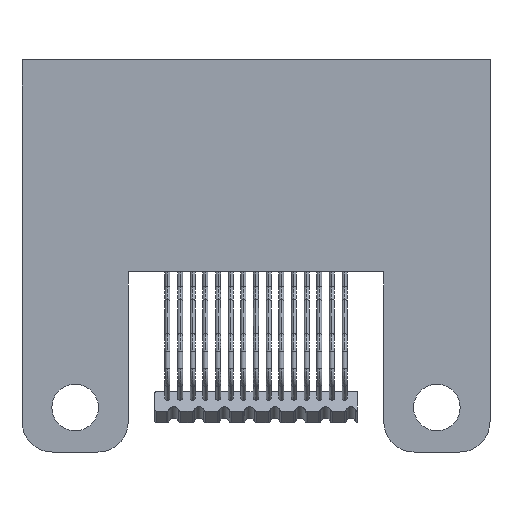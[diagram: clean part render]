
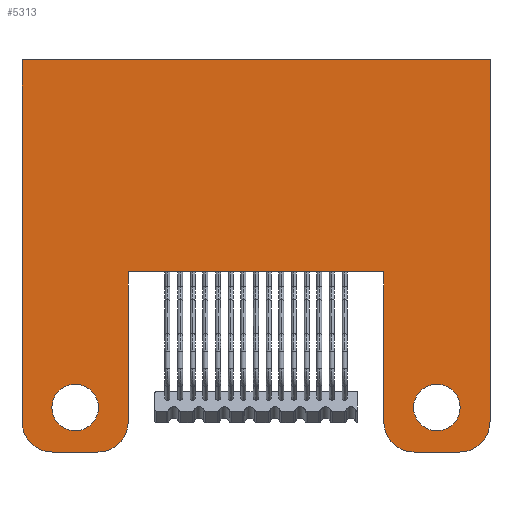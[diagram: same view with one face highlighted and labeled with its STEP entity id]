
A CAD part, front view. The second image highlights one B-rep face of the part: STEP entity #5313.
In plain terms, the highlighted planar face has unit normal (0, -1, 0).
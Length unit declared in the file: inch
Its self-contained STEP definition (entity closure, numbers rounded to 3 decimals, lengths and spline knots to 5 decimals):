
#216 = ORIENTED_EDGE ( 'NONE', *, *, #40646, .T. ) ;
#425 = EDGE_CURVE ( 'NONE', #5229, #7676, #3367, .T. ) ;
#821 = EDGE_CURVE ( 'NONE', #36805, #17045, #2101, .T. ) ;
#1608 = CARTESIAN_POINT ( 'NONE',  ( 0.4035, -0.17, -0.452 ) ) ;
#1726 = AXIS2_PLACEMENT_3D ( 'NONE', #36859, #4213, #26295 ) ;
#1931 = CARTESIAN_POINT ( 'NONE',  ( -0.3115, -0.17, -0.452 ) ) ;
#1934 = ORIENTED_EDGE ( 'NONE', *, *, #6930, .T. ) ;
#2101 = LINE ( 'NONE', #27369, #42109 ) ;
#2481 = ORIENTED_EDGE ( 'NONE', *, *, #18341, .T. ) ;
#2566 = ORIENTED_EDGE ( 'NONE', *, *, #11851, .F. ) ;
#2715 = LINE ( 'NONE', #25145, #16786 ) ;
#3236 = CARTESIAN_POINT ( 'NONE',  ( -0.4625, -0.17, 0.235 ) ) ;
#3289 = VERTEX_POINT ( 'NONE', #21694 ) ;
#3367 = CIRCLE ( 'NONE', #4760, 0.06 ) ;
#3624 = EDGE_CURVE ( 'NONE', #5229, #3650, #28807, .T. ) ;
#3650 = VERTEX_POINT ( 'NONE', #9749 ) ;
#4198 = DIRECTION ( 'NONE',  ( 0., 0., 1. ) ) ;
#4213 = DIRECTION ( 'NONE',  ( 0., -1., 0. ) ) ;
#4392 = EDGE_CURVE ( 'NONE', #14978, #42609, #9758, .T. ) ;
#4451 = AXIS2_PLACEMENT_3D ( 'NONE', #37288, #34249, #30798 ) ;
#4749 = CARTESIAN_POINT ( 'NONE',  ( 0.2525, -0.17, -0.184 ) ) ;
#4760 = AXIS2_PLACEMENT_3D ( 'NONE', #15763, #12942, #19632 ) ;
#4852 = DIRECTION ( 'NONE',  ( 0., 0., 1. ) ) ;
#5229 = VERTEX_POINT ( 'NONE', #30824 ) ;
#5313 = ADVANCED_FACE ( 'NONE', ( #13171, #26366, #32473 ), #26158, .F. ) ;
#5565 = VERTEX_POINT ( 'NONE', #41000 ) ;
#6422 = CARTESIAN_POINT ( 'NONE',  ( 0.2525, -0.17, -1.3384 ) ) ;
#6657 = DIRECTION ( 'NONE',  ( 0., 0., 1. ) ) ;
#6930 = EDGE_CURVE ( 'NONE', #7676, #14978, #22569, .T. ) ;
#7144 = EDGE_CURVE ( 'NONE', #5565, #3650, #18928, .T. ) ;
#7676 = VERTEX_POINT ( 'NONE', #21519 ) ;
#7960 = AXIS2_PLACEMENT_3D ( 'NONE', #40043, #10049, #6657 ) ;
#8509 = CIRCLE ( 'NONE', #20878, 0.06 ) ;
#8952 = VECTOR ( 'NONE', #19531, 39.37008 ) ;
#9740 = DIRECTION ( 'NONE',  ( 0., 1., 0. ) ) ;
#9749 = CARTESIAN_POINT ( 'NONE',  ( -0.4025, -0.17, -0.54 ) ) ;
#9758 = LINE ( 'NONE', #39550, #12317 ) ;
#10042 = EDGE_CURVE ( 'NONE', #13473, #42609, #25599, .T. ) ;
#10049 = DIRECTION ( 'NONE',  ( 0., 1., 0. ) ) ;
#10560 = AXIS2_PLACEMENT_3D ( 'NONE', #22937, #12783, #29017 ) ;
#11640 = DIRECTION ( 'NONE',  ( 0., 0., 1. ) ) ;
#11851 = EDGE_CURVE ( 'NONE', #23020, #3289, #2715, .T. ) ;
#12317 = VECTOR ( 'NONE', #42129, 39.37008 ) ;
#12783 = DIRECTION ( 'NONE',  ( 0., 1., 0. ) ) ;
#12942 = DIRECTION ( 'NONE',  ( 0., -1., 0. ) ) ;
#13171 = FACE_BOUND ( 'NONE', #28647, .T. ) ;
#13238 = CARTESIAN_POINT ( 'NONE',  ( -0.2525, -0.17, -0.184 ) ) ;
#13416 = VECTOR ( 'NONE', #28244, 39.37008 ) ;
#13473 = VERTEX_POINT ( 'NONE', #39066 ) ;
#14107 = VECTOR ( 'NONE', #4198, 39.37008 ) ;
#14174 = ORIENTED_EDGE ( 'NONE', *, *, #25751, .T. ) ;
#14467 = AXIS2_PLACEMENT_3D ( 'NONE', #31150, #40774, #11640 ) ;
#14550 = EDGE_CURVE ( 'NONE', #33716, #17045, #21190, .T. ) ;
#14644 = CARTESIAN_POINT ( 'NONE',  ( 0.4625, -0.17, -0.48 ) ) ;
#14978 = VERTEX_POINT ( 'NONE', #13238 ) ;
#15030 = CARTESIAN_POINT ( 'NONE',  ( -0.4625, -0.17, -1.16279 ) ) ;
#15763 = CARTESIAN_POINT ( 'NONE',  ( -0.3125, -0.17, -0.48 ) ) ;
#16786 = VECTOR ( 'NONE', #41754, 39.37008 ) ;
#17045 = VERTEX_POINT ( 'NONE', #25862 ) ;
#18149 = DIRECTION ( 'NONE',  ( 1., 0., 0. ) ) ;
#18341 = EDGE_CURVE ( 'NONE', #20750, #38291, #41615, .T. ) ;
#18928 = CIRCLE ( 'NONE', #24479, 0.06 ) ;
#19531 = DIRECTION ( 'NONE',  ( 0., 0., 1. ) ) ;
#19632 = DIRECTION ( 'NONE',  ( 0., 0., 1. ) ) ;
#20750 = VERTEX_POINT ( 'NONE', #41447 ) ;
#20878 = AXIS2_PLACEMENT_3D ( 'NONE', #41716, #38106, #34649 ) ;
#21190 = LINE ( 'NONE', #28119, #25078 ) ;
#21519 = CARTESIAN_POINT ( 'NONE',  ( -0.2525, -0.17, -0.48 ) ) ;
#21694 = CARTESIAN_POINT ( 'NONE',  ( 0.3125, -0.17, -0.54 ) ) ;
#22363 = EDGE_CURVE ( 'NONE', #5565, #33716, #34735, .T. ) ;
#22569 = LINE ( 'NONE', #32542, #14107 ) ;
#22668 = AXIS2_PLACEMENT_3D ( 'NONE', #39325, #9740, #36122 ) ;
#22937 = CARTESIAN_POINT ( 'NONE',  ( -0.3575, -0.17, -0.452 ) ) ;
#23020 = VERTEX_POINT ( 'NONE', #37998 ) ;
#24479 = AXIS2_PLACEMENT_3D ( 'NONE', #34436, #28150, #4852 ) ;
#25078 = VECTOR ( 'NONE', #18149, 39.37008 ) ;
#25145 = CARTESIAN_POINT ( 'NONE',  ( 0., -0.17, -0.54 ) ) ;
#25430 = ORIENTED_EDGE ( 'NONE', *, *, #36140, .T. ) ;
#25599 = LINE ( 'NONE', #6422, #8952 ) ;
#25751 = EDGE_CURVE ( 'NONE', #13473, #3289, #8509, .T. ) ;
#25862 = CARTESIAN_POINT ( 'NONE',  ( 0.4625, -0.17, 0.235 ) ) ;
#26158 = PLANE ( 'NONE',  #22668 ) ;
#26295 = DIRECTION ( 'NONE',  ( 0., 0., 1. ) ) ;
#26366 = FACE_BOUND ( 'NONE', #34048, .T. ) ;
#26490 = EDGE_CURVE ( 'NONE', #23020, #36805, #33447, .T. ) ;
#26535 = CIRCLE ( 'NONE', #7960, 0.046 ) ;
#27369 = CARTESIAN_POINT ( 'NONE',  ( 0.4625, -0.17, -1.16279 ) ) ;
#27811 = ORIENTED_EDGE ( 'NONE', *, *, #821, .T. ) ;
#28119 = CARTESIAN_POINT ( 'NONE',  ( 0.4625, -0.17, 0.235 ) ) ;
#28150 = DIRECTION ( 'NONE',  ( 0., -1., 0. ) ) ;
#28163 = ORIENTED_EDGE ( 'NONE', *, *, #42354, .T. ) ;
#28244 = DIRECTION ( 'NONE',  ( 0., 0., 1. ) ) ;
#28647 = EDGE_LOOP ( 'NONE', ( #2481, #25430 ) ) ;
#28807 = LINE ( 'NONE', #42336, #40558 ) ;
#29017 = DIRECTION ( 'NONE',  ( 0., 0., 1. ) ) ;
#29243 = ORIENTED_EDGE ( 'NONE', *, *, #3624, .F. ) ;
#29248 = CIRCLE ( 'NONE', #10560, 0.046 ) ;
#29779 = ORIENTED_EDGE ( 'NONE', *, *, #22363, .F. ) ;
#30416 = ORIENTED_EDGE ( 'NONE', *, *, #26490, .T. ) ;
#30798 = DIRECTION ( 'NONE',  ( 0., 0., 1. ) ) ;
#30824 = CARTESIAN_POINT ( 'NONE',  ( -0.3125, -0.17, -0.54 ) ) ;
#31150 = CARTESIAN_POINT ( 'NONE',  ( -0.3575, -0.17, -0.452 ) ) ;
#32348 = ORIENTED_EDGE ( 'NONE', *, *, #14550, .F. ) ;
#32473 = FACE_OUTER_BOUND ( 'NONE', #32654, .T. ) ;
#32488 = DIRECTION ( 'NONE',  ( -1., 0., 0. ) ) ;
#32542 = CARTESIAN_POINT ( 'NONE',  ( -0.2525, -0.17, -1.3384 ) ) ;
#32654 = EDGE_LOOP ( 'NONE', ( #29779, #36292, #29243, #33019, #1934, #32960, #41860, #14174, #2566, #30416, #27811, #32348 ) ) ;
#32960 = ORIENTED_EDGE ( 'NONE', *, *, #4392, .T. ) ;
#33019 = ORIENTED_EDGE ( 'NONE', *, *, #425, .T. ) ;
#33167 = CIRCLE ( 'NONE', #14467, 0.046 ) ;
#33447 = CIRCLE ( 'NONE', #1726, 0.06 ) ;
#33716 = VERTEX_POINT ( 'NONE', #3236 ) ;
#34048 = EDGE_LOOP ( 'NONE', ( #216, #28163 ) ) ;
#34249 = DIRECTION ( 'NONE',  ( 0., 1., 0. ) ) ;
#34436 = CARTESIAN_POINT ( 'NONE',  ( -0.4025, -0.17, -0.48 ) ) ;
#34649 = DIRECTION ( 'NONE',  ( 0., 0., 1. ) ) ;
#34735 = LINE ( 'NONE', #15030, #13416 ) ;
#36122 = DIRECTION ( 'NONE',  ( 0., 0., 1. ) ) ;
#36140 = EDGE_CURVE ( 'NONE', #38291, #20750, #26535, .T. ) ;
#36292 = ORIENTED_EDGE ( 'NONE', *, *, #7144, .T. ) ;
#36805 = VERTEX_POINT ( 'NONE', #14644 ) ;
#36859 = CARTESIAN_POINT ( 'NONE',  ( 0.4025, -0.17, -0.48 ) ) ;
#37288 = CARTESIAN_POINT ( 'NONE',  ( 0.3575, -0.17, -0.452 ) ) ;
#37998 = CARTESIAN_POINT ( 'NONE',  ( 0.4025, -0.17, -0.54 ) ) ;
#38106 = DIRECTION ( 'NONE',  ( 0., -1., 0. ) ) ;
#38291 = VERTEX_POINT ( 'NONE', #1608 ) ;
#39066 = CARTESIAN_POINT ( 'NONE',  ( 0.2525, -0.17, -0.48 ) ) ;
#39325 = CARTESIAN_POINT ( 'NONE',  ( 0.4625, -0.17, -1.16279 ) ) ;
#39550 = CARTESIAN_POINT ( 'NONE',  ( 0.4625, -0.17, -0.184 ) ) ;
#40043 = CARTESIAN_POINT ( 'NONE',  ( 0.3575, -0.17, -0.452 ) ) ;
#40478 = DIRECTION ( 'NONE',  ( 0., 0., 1. ) ) ;
#40558 = VECTOR ( 'NONE', #32488, 39.37008 ) ;
#40646 = EDGE_CURVE ( 'NONE', #41881, #42619, #33167, .T. ) ;
#40774 = DIRECTION ( 'NONE',  ( 0., 1., 0. ) ) ;
#41000 = CARTESIAN_POINT ( 'NONE',  ( -0.4625, -0.17, -0.48 ) ) ;
#41447 = CARTESIAN_POINT ( 'NONE',  ( 0.3115, -0.17, -0.452 ) ) ;
#41615 = CIRCLE ( 'NONE', #4451, 0.046 ) ;
#41716 = CARTESIAN_POINT ( 'NONE',  ( 0.3125, -0.17, -0.48 ) ) ;
#41754 = DIRECTION ( 'NONE',  ( -1., 0., 0. ) ) ;
#41860 = ORIENTED_EDGE ( 'NONE', *, *, #10042, .F. ) ;
#41861 = CARTESIAN_POINT ( 'NONE',  ( -0.4035, -0.17, -0.452 ) ) ;
#41881 = VERTEX_POINT ( 'NONE', #41861 ) ;
#42109 = VECTOR ( 'NONE', #40478, 39.37008 ) ;
#42129 = DIRECTION ( 'NONE',  ( 1., 0., 0. ) ) ;
#42336 = CARTESIAN_POINT ( 'NONE',  ( 0., -0.17, -0.54 ) ) ;
#42354 = EDGE_CURVE ( 'NONE', #42619, #41881, #29248, .T. ) ;
#42609 = VERTEX_POINT ( 'NONE', #4749 ) ;
#42619 = VERTEX_POINT ( 'NONE', #1931 ) ;
